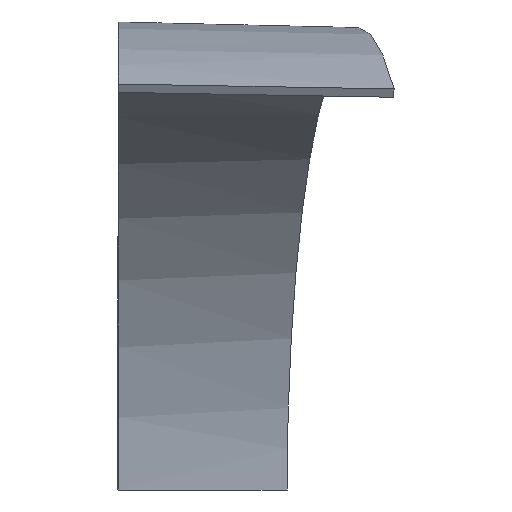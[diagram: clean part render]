
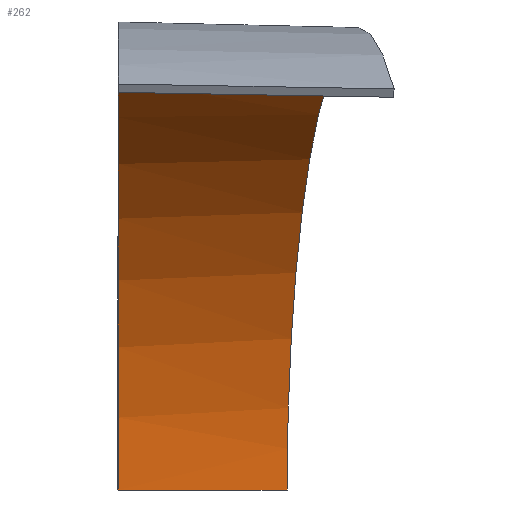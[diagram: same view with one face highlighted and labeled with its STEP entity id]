
A CAD part, front view. The second image highlights one B-rep face of the part: STEP entity #262.
In plain terms, the highlighted free-form (B-spline) face has degree [3, 1] with [10, 2] control points.
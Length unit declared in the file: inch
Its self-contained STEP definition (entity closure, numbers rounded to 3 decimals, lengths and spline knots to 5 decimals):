
#2 = ORIENTED_EDGE ( 'NONE', *, *, #205, .F. ) ;
#5 = CARTESIAN_POINT ( 'NONE',  ( 21.53678, -135.97791, 30.86034 ) ) ;
#6 = B_SPLINE_CURVE_WITH_KNOTS ( 'NONE', 3,
 ( #242, #218, #310, #102, #269, #314, #11, #9, #291, #121 ),
 .UNSPECIFIED., .F., .F.,
 ( 4, 2, 2, 2, 4 ),
 ( 0., 0.25, 0.5, 0.75, 1. ),
 .UNSPECIFIED. ) ;
#9 = CARTESIAN_POINT ( 'NONE',  ( 0., -126.22708, 36.01218 ) ) ;
#10 = CARTESIAN_POINT ( 'NONE',  ( 0., -126.22708, 36.01218 ) ) ;
#11 = CARTESIAN_POINT ( 'NONE',  ( 0., -113.63292, 35.98769 ) ) ;
#12 = CARTESIAN_POINT ( 'NONE',  ( 13.20897, -83.39815, 0.125 ) ) ;
#29 = CARTESIAN_POINT ( 'NONE',  ( 19.73556, -124.60541, 35.57338 ) ) ;
#34 = CARTESIAN_POINT ( 'NONE',  ( 13.20897, -83.39815, 0.125 ) ) ;
#35 = CARTESIAN_POINT ( 'NONE',  ( 20.69226, -130.6458, 33.95195 ) ) ;
#36 = CARTESIAN_POINT ( 'NONE',  ( 13.21239, -83.41975, 6.34611 ) ) ;
#38 = CARTESIAN_POINT ( 'NONE',  ( 21.53678, -135.97791, 30.86034 ) ) ;
#41 = B_SPLINE_CURVE_WITH_KNOTS ( 'NONE', 3,
 ( #173, #223, #109, #178 ),
 .UNSPECIFIED., .F., .F.,
 ( 4, 4 ),
 ( 0., 1. ),
 .UNSPECIFIED. ) ;
#42 = CARTESIAN_POINT ( 'NONE',  ( 0., -137.88296, 31.2442 ) ) ;
#43 = VERTEX_POINT ( 'NONE', #34 ) ;
#62 = B_SPLINE_CURVE_WITH_KNOTS ( 'NONE', 3,
 ( #12, #265, #99, #152 ),
 .UNSPECIFIED., .F., .F.,
 ( 4, 4 ),
 ( 0., 1. ),
 .UNSPECIFIED. ) ;
#70 = CARTESIAN_POINT ( 'NONE',  ( 0., -137.88296, 31.2442 ) ) ;
#73 = CARTESIAN_POINT ( 'NONE',  ( 16.83335, -106.28161, 33.9086 ) ) ;
#74 = CARTESIAN_POINT ( 'NONE',  ( 14.44724, -91.21628, 23.21754 ) ) ;
#79 = ORIENTED_EDGE ( 'NONE', *, *, #270, .F. ) ;
#93 = B_SPLINE_CURVE_WITH_KNOTS ( 'NONE', 3,
 ( #213, #217, #29, #192, #282, #141, #308, #174, #36, #146 ),
 .UNSPECIFIED., .F., .F.,
 ( 4, 2, 2, 2, 4 ),
 ( 0., 0.25, 0.5, 0.75, 1. ),
 .UNSPECIFIED. ) ;
#98 = CARTESIAN_POINT ( 'NONE',  ( 0., -92.01076, 23.50012 ) ) ;
#99 = CARTESIAN_POINT ( 'NONE',  ( 4.40299, -83.79953, 0.125 ) ) ;
#100 = CARTESIAN_POINT ( 'NONE',  ( 13.20897, -83.39815, 0.125 ) ) ;
#102 = CARTESIAN_POINT ( 'NONE',  ( 0., -92.01076, 23.50012 ) ) ;
#109 = CARTESIAN_POINT ( 'NONE',  ( 14.35786, -136.61292, 30.98829 ) ) ;
#121 = CARTESIAN_POINT ( 'NONE',  ( 0., -137.88296, 31.2442 ) ) ;
#123 = CARTESIAN_POINT ( 'NONE',  ( 13.47108, -85.05304, 12.45315 ) ) ;
#125 = CARTESIAN_POINT ( 'NONE',  ( 0., -85.6955, 12.60375 ) ) ;
#134 = VERTEX_POINT ( 'NONE', #5 ) ;
#141 = CARTESIAN_POINT ( 'NONE',  ( 15.14772, -95.63893, 27.68746 ) ) ;
#146 = CARTESIAN_POINT ( 'NONE',  ( 13.20897, -83.39815, 0.125 ) ) ;
#149 = CARTESIAN_POINT ( 'NONE',  ( 17.78916, -112.31633, 35.55151 ) ) ;
#150 = EDGE_CURVE ( 'NONE', #134, #43, #93, .T. ) ;
#152 = CARTESIAN_POINT ( 'NONE',  ( 0., -84.00022, 0.125 ) ) ;
#157 = VERTEX_POINT ( 'NONE', #70 ) ;
#168 = CARTESIAN_POINT ( 'NONE',  ( 0., -113.63292, 35.98769 ) ) ;
#172 = CARTESIAN_POINT ( 'NONE',  ( 15.14772, -95.63893, 27.68746 ) ) ;
#173 = CARTESIAN_POINT ( 'NONE',  ( 0., -137.88296, 31.2442 ) ) ;
#174 = CARTESIAN_POINT ( 'NONE',  ( 13.47108, -85.05304, 12.45315 ) ) ;
#178 = CARTESIAN_POINT ( 'NONE',  ( 21.53678, -135.97791, 30.86034 ) ) ;
#192 = CARTESIAN_POINT ( 'NONE',  ( 17.78916, -112.31633, 35.55151 ) ) ;
#196 = CARTESIAN_POINT ( 'NONE',  ( 0., -84.00022, 0.125 ) ) ;
#197 = ORIENTED_EDGE ( 'NONE', *, *, #224, .F. ) ;
#198 = CARTESIAN_POINT ( 'NONE',  ( 0., -107.44867, 34.32372 ) ) ;
#205 = EDGE_CURVE ( 'NONE', #43, #296, #62, .T. ) ;
#213 = CARTESIAN_POINT ( 'NONE',  ( 21.53678, -135.97791, 30.86034 ) ) ;
#217 = CARTESIAN_POINT ( 'NONE',  ( 20.69226, -130.6458, 33.95195 ) ) ;
#218 = CARTESIAN_POINT ( 'NONE',  ( 0., -84.02208, 6.42205 ) ) ;
#220 = CARTESIAN_POINT ( 'NONE',  ( 13.21239, -83.41975, 6.34611 ) ) ;
#223 = CARTESIAN_POINT ( 'NONE',  ( 7.17893, -137.24794, 31.11624 ) ) ;
#224 = EDGE_CURVE ( 'NONE', #296, #157, #6, .T. ) ;
#242 = CARTESIAN_POINT ( 'NONE',  ( 0., -84.00022, 0.125 ) ) ;
#244 = CARTESIAN_POINT ( 'NONE',  ( 19.73556, -124.60541, 35.57338 ) ) ;
#245 = ORIENTED_EDGE ( 'NONE', *, *, #150, .F. ) ;
#246 = CARTESIAN_POINT ( 'NONE',  ( 0., -84.02208, 6.42205 ) ) ;
#262 = ADVANCED_FACE ( 'NONE', ( #293 ), #266, .F. ) ;
#265 = CARTESIAN_POINT ( 'NONE',  ( 8.80598, -83.59884, 0.125 ) ) ;
#266 = B_SPLINE_SURFACE_WITH_KNOTS ( 'NONE', 3, 1, ( 
 ( #38, #42 ),
 ( #35, #311 ),
 ( #244, #10 ),
 ( #149, #168 ),
 ( #73, #198 ),
 ( #172, #268 ),
 ( #74, #98 ),
 ( #123, #125 ),
 ( #220, #246 ),
 ( #100, #196 ) ),
 .UNSPECIFIED., .F., .F., .F.,
 ( 4, 2, 2, 2, 4 ),
 ( 2, 2 ),
 ( 0., 0.25, 0.5, 0.75, 1. ),
 ( 0., 1. ),
 .UNSPECIFIED. ) ;
#268 = CARTESIAN_POINT ( 'NONE',  ( 0., -96.54267, 28.02511 ) ) ;
#269 = CARTESIAN_POINT ( 'NONE',  ( 0., -96.54267, 28.02511 ) ) ;
#270 = EDGE_CURVE ( 'NONE', #157, #134, #41, .T. ) ;
#282 = CARTESIAN_POINT ( 'NONE',  ( 16.83335, -106.28161, 33.9086 ) ) ;
#283 = EDGE_LOOP ( 'NONE', ( #245, #79, #197, #2 ) ) ;
#291 = CARTESIAN_POINT ( 'NONE',  ( 0., -132.41775, 34.37227 ) ) ;
#293 = FACE_OUTER_BOUND ( 'NONE', #283, .T. ) ;
#296 = VERTEX_POINT ( 'NONE', #318 ) ;
#308 = CARTESIAN_POINT ( 'NONE',  ( 14.44724, -91.21628, 23.21754 ) ) ;
#310 = CARTESIAN_POINT ( 'NONE',  ( 0., -85.6955, 12.60375 ) ) ;
#311 = CARTESIAN_POINT ( 'NONE',  ( 0., -132.41775, 34.37227 ) ) ;
#314 = CARTESIAN_POINT ( 'NONE',  ( 0., -107.44867, 34.32372 ) ) ;
#318 = CARTESIAN_POINT ( 'NONE',  ( 0., -84.00022, 0.125 ) ) ;
